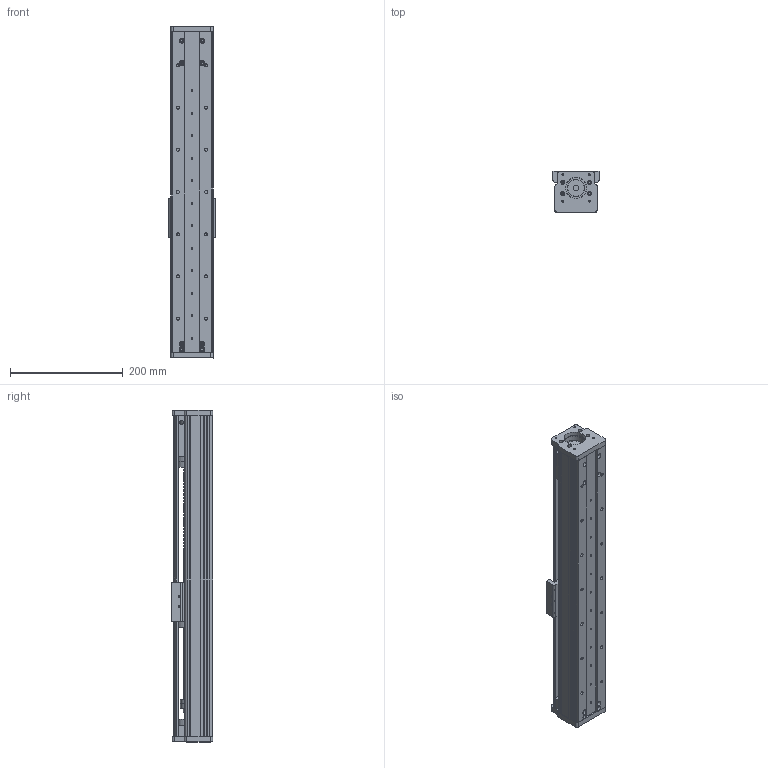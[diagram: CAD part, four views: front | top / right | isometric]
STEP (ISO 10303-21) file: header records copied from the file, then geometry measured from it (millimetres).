
FILE_DESCRIPTION (( 'STEP AP203' ), '1' );
FILE_NAME ('CF75-P350.STEP', '2016-02-22T03:01:39', ( 'Sky123.Org' ), ( 'Sky123.Org' ), 'SwSTEP 2.0', 'SolidWorks 2015', '' );
FILE_SCHEMA (( 'CONFIG_CONTROL_DESIGN' ));
Length unit declared in the file: millimetre
Products named in the file (17): 75賑雄啣; MGW12H絳寢-俴最300; CF75-P350; 30-42薊粣ん; 75-57祭輛萇儂假蚾啣; 75嘐隅釱; 75支持侧板（2016.01.24改进）; MGW12賑輸; 75滅袉蝶菜; 75盓厥釱; SFU1605-3; 75裔啣; angular contact ball bearings gb_Rolling bearings S7001 GB 292-94; 75粣創裔啣; SFU1616幗紩佪裝; 坶踡蹟譫M12-1; CF75-300俴最臏倰第
Assembly tree (20 placements, depth 2):
  CF75-P350
    MGW12賑輸
    SFU1605-3
    75粣創裔啣
    75滅袉蝶菜  x2
    75裔啣
    SFU1616幗紩佪裝
    CF75-300俴最臏倰第
    MGW12H絳寢-俴最300
    30-42薊粣ん
    75-57祭輛萇儂假蚾啣
    75嘐隅釱
    75支持侧板（2016.01.24改进）
    75盓厥釱
    angular contact ball bearings gb_Rolling bearings S7001 GB 292-94  x4
    坶踡蹟譫M12-1
    75賑雄啣
Bounding box: 82.03 x 73.93 x 590.03 mm (x, y, z)
Volume: 1439036.3 mm3; surface area: 527303.5 mm2
Topology: 20 solids, 20 shells, 1489 faces, 4801 edges, 3201 vertices
Faces by surface type: cylinder 677, plane 485, torus 212, sphere 112, bspline 3
Entity records: 52960 total; most frequent: CARTESIAN_POINT 20743, ORIENTED_EDGE 6542, DIRECTION 6275, EDGE_CURVE 3271, AXIS2_PLACEMENT_3D 2412, VERTEX_POINT 2166, VECTOR 1451, LINE 1451
